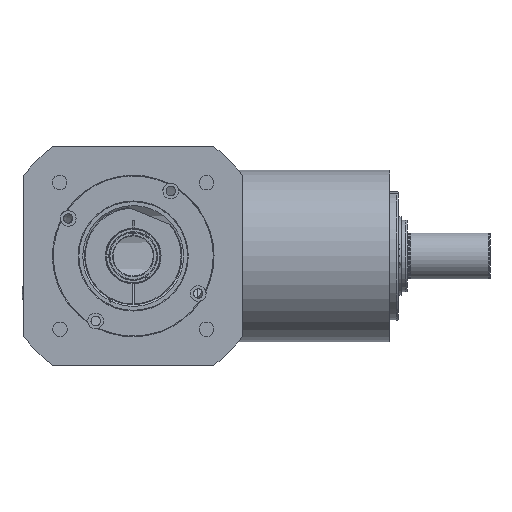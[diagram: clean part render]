
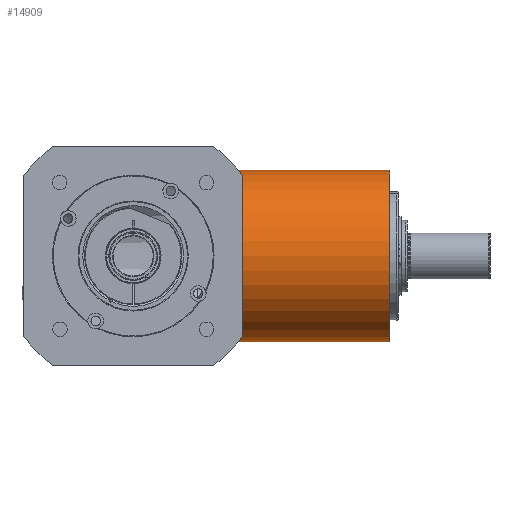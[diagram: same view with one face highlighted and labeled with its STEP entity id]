
A CAD part, front view. The second image highlights one B-rep face of the part: STEP entity #14909.
In plain terms, the highlighted cylindrical face has radius 60 mm (diameter 120 mm), a partial arc.
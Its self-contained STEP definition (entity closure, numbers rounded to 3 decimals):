
#1411 = DIRECTION ( 'NONE',  ( 0., 0., -1. ) ) ;
#3004 = LINE ( 'NONE', #15974, #31358 ) ;
#3317 = CARTESIAN_POINT ( 'NONE',  ( 64.5, 0., 0. ) ) ;
#3978 = DIRECTION ( 'NONE',  ( 1., 0., 0. ) ) ;
#4297 = ORIENTED_EDGE ( 'NONE', *, *, #17499, .F. ) ;
#4670 = AXIS2_PLACEMENT_3D ( 'NONE', #17557, #27959, #6612 ) ;
#4706 = CARTESIAN_POINT ( 'NONE',  ( 179., 0., 60. ) ) ;
#4987 = AXIS2_PLACEMENT_3D ( 'NONE', #17320, #3978, #1411 ) ;
#6293 = CIRCLE ( 'NONE', #4670, 60. ) ;
#6612 = DIRECTION ( 'NONE',  ( 0., 0., 1. ) ) ;
#7383 = CARTESIAN_POINT ( 'NONE',  ( 64.5, 0., -60. ) ) ;
#8010 = CARTESIAN_POINT ( 'NONE',  ( 116.368, 0., 60. ) ) ;
#8495 = EDGE_CURVE ( 'NONE', #30857, #16650, #6293, .T. ) ;
#8674 = EDGE_CURVE ( 'NONE', #10263, #30857, #3004, .T. ) ;
#10263 = VERTEX_POINT ( 'NONE', #7383 ) ;
#11041 = AXIS2_PLACEMENT_3D ( 'NONE', #3317, #26540, #13712 ) ;
#12132 = CARTESIAN_POINT ( 'NONE',  ( 179., 0., -60. ) ) ;
#13180 = VERTEX_POINT ( 'NONE', #21496 ) ;
#13712 = DIRECTION ( 'NONE',  ( 0., 0., -1. ) ) ;
#14909 = ADVANCED_FACE ( 'NONE', ( #18525 ), #21408, .T. ) ;
#15974 = CARTESIAN_POINT ( 'NONE',  ( 116.368, 0., -60. ) ) ;
#16650 = VERTEX_POINT ( 'NONE', #4706 ) ;
#17320 = CARTESIAN_POINT ( 'NONE',  ( 116.368, 0., 0. ) ) ;
#17499 = EDGE_CURVE ( 'NONE', #13180, #16650, #31449, .T. ) ;
#17557 = CARTESIAN_POINT ( 'NONE',  ( 179., 0., 0. ) ) ;
#18525 = FACE_OUTER_BOUND ( 'NONE', #31959, .T. ) ;
#20854 = CIRCLE ( 'NONE', #11041, 60. ) ;
#21154 = DIRECTION ( 'NONE',  ( 1., 0., 0. ) ) ;
#21408 = CYLINDRICAL_SURFACE ( 'NONE', #4987, 60. ) ;
#21496 = CARTESIAN_POINT ( 'NONE',  ( 64.5, 0., 60. ) ) ;
#24733 = EDGE_CURVE ( 'NONE', #13180, #10263, #20854, .T. ) ;
#25626 = ORIENTED_EDGE ( 'NONE', *, *, #8495, .T. ) ;
#26540 = DIRECTION ( 'NONE',  ( 1., 0., 0. ) ) ;
#27343 = ORIENTED_EDGE ( 'NONE', *, *, #8674, .T. ) ;
#27959 = DIRECTION ( 'NONE',  ( -1., 0., 0. ) ) ;
#28877 = ORIENTED_EDGE ( 'NONE', *, *, #24733, .T. ) ;
#29142 = DIRECTION ( 'NONE',  ( 1., 0., 0. ) ) ;
#30857 = VERTEX_POINT ( 'NONE', #12132 ) ;
#31358 = VECTOR ( 'NONE', #29142, 1000. ) ;
#31449 = LINE ( 'NONE', #8010, #33853 ) ;
#31959 = EDGE_LOOP ( 'NONE', ( #4297, #28877, #27343, #25626 ) ) ;
#33853 = VECTOR ( 'NONE', #21154, 1000. ) ;
